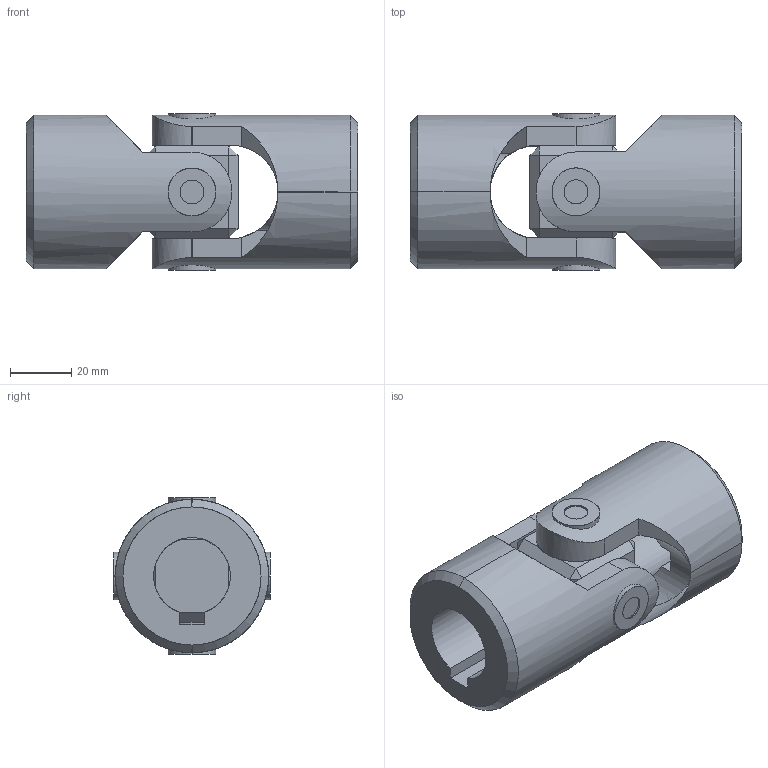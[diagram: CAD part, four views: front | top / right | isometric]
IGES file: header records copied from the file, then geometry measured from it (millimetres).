
Start section: SolidWorks IGES file using analytic representation for surfaces
Global section: file name: C:\Users\IanO\Desktop\R3690_v2\R3690_v2_20231020_IGES\R3690.025-KW.igs; native system: SolidWorks 2019; preprocessor: SolidWorks 2019; author: IanO; date: 231020.152544; units: millimetre
Bounding box: 108 x 51 x 51 mm (x, y, z)
Surface area: 40351.9 mm2 (no closed solid volume)
Topology: 0 solids, 0 shells, 110 faces, 2368 edges, 2368 vertices
Faces by surface type: bspline 62, revolution 48
